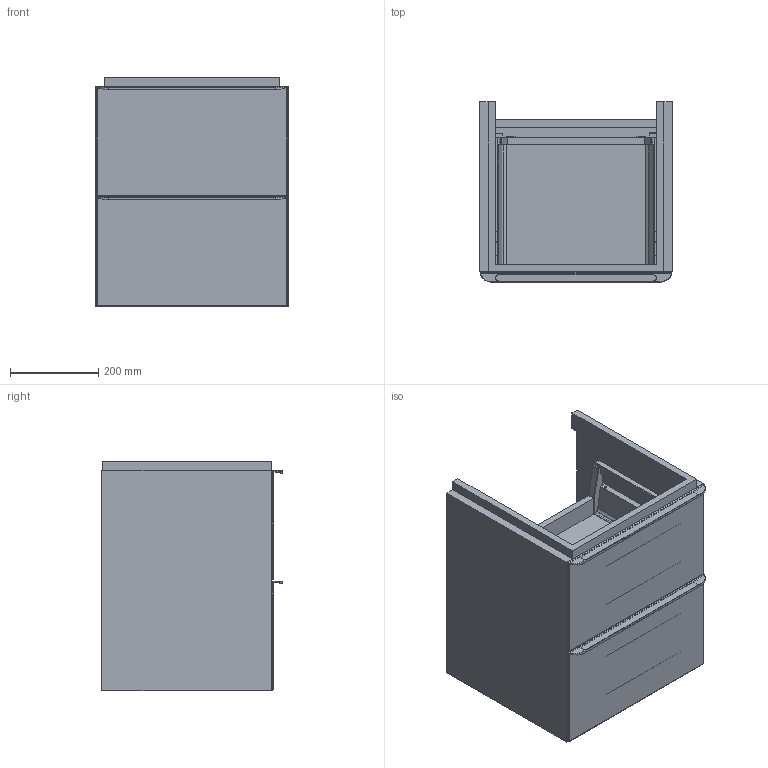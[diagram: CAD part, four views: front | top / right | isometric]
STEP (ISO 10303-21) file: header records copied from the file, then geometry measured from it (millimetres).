
FILE_DESCRIPTION(/* description */ (''),/* implementation_level */ '2;1');
FILE_NAME(/* name */ '3D01_4~1',/* time_stamp */ '2018-05-07T18:06:24+02:00',/* author */ (''),/* organization */ (''),/* preprocessor_version */ 'ST-DEVELOPER v15',/* originating_system */ '',/* authorisation */ '');
FILE_SCHEMA (('AUTOMOTIVE_DESIGN'));
Length unit declared in the file: millimetre
Products named in the file (31): Document; Parte88; Parte86; Parte72; Parte70; Parte68; Parte66; Parte62; Parte60; Parte58; Parte56; Parte54; Parte52; Parte50; Parte48; Parte46; Parte40; Parte38; Parte36; Parte34; Parte32; Parte30; Parte28; Parte26; Parte24; Parte22; Parte20; Parte18; Parte16; Parte14; Parte12
Assembly tree (30 placements, depth 2):
  Document
    Parte88
    Parte86
    Parte72
    Parte70
    Parte68
    Parte66
    Parte62
    Parte60
    Parte58
    Parte56
    Parte54
    Parte52
    Parte50
    Parte48
    Parte46
    Parte40
    Parte38
    Parte36
    Parte34
    Parte32
    Parte30
    Parte28
    Parte26
    Parte24
    Parte22
    Parte20
    Parte18
    Parte16
    Parte14
    Parte12
Bounding box: 438 x 410 x 522 mm (x, y, z)
Volume: 18342867.2 mm3; surface area: 3663035.5 mm2
Topology: 30 solids, 30 shells, 1343 faces, 3823 edges, 2598 vertices
Faces by surface type: plane 943, bspline 400
Entity records: 45322 total; most frequent: CARTESIAN_POINT 19813, ORIENTED_EDGE 7646, EDGE_CURVE 3823, B_SPLINE_CURVE_WITH_KNOTS 2994, VERTEX_POINT 2598, EDGE_LOOP 1525, ADVANCED_FACE 1343, FACE_OUTER_BOUND 1343
